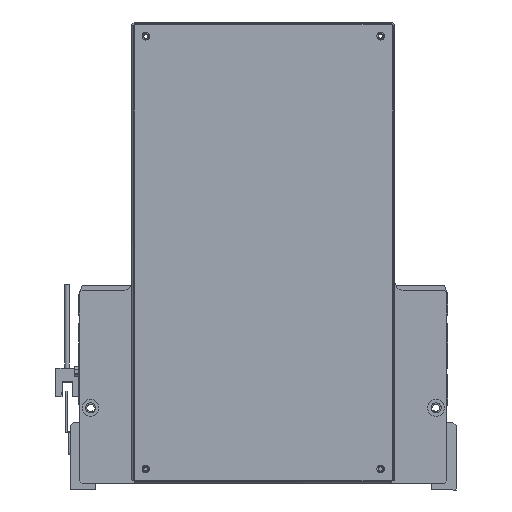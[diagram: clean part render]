
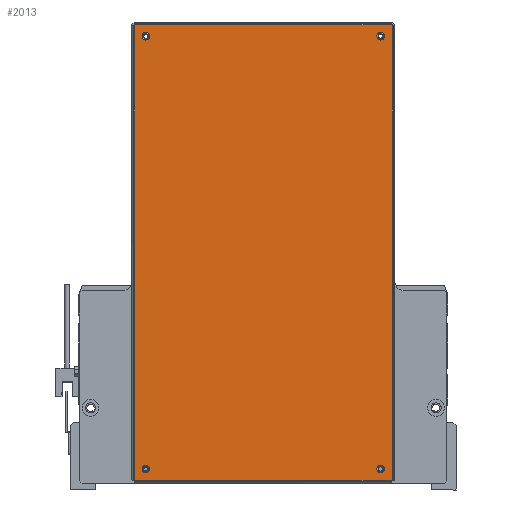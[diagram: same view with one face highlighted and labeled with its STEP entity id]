
A CAD part, front view. The second image highlights one B-rep face of the part: STEP entity #2013.
In plain terms, the highlighted planar face has unit normal (0, -1, 0) as drawn and (0, 0, 1) by its records, which use the part's own axes.
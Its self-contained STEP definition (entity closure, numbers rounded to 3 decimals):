
#877 = CARTESIAN_POINT ( 'NONE',  ( 70., -144., 71. ) ) ;
#954 = PLANE ( 'NONE',  #70922 ) ;
#2013 = ADVANCED_FACE ( 'NONE', ( #64515, #105275, #99609, #22629, #25382 ), #954, .F. ) ;
#2484 = CARTESIAN_POINT ( 'NONE',  ( 70., -144., 71. ) ) ;
#2800 = DIRECTION ( 'NONE',  ( 1., 0., 0. ) ) ;
#3262 = DIRECTION ( 'NONE',  ( 0., 0., 1. ) ) ;
#4441 = ORIENTED_EDGE ( 'NONE', *, *, #101887, .F. ) ;
#6394 = EDGE_CURVE ( 'NONE', #69008, #31630, #89392, .T. ) ;
#8108 = VERTEX_POINT ( 'NONE', #92430 ) ;
#8383 = EDGE_LOOP ( 'NONE', ( #26591, #39963, #104387, #112509 ) ) ;
#10742 = DIRECTION ( 'NONE',  ( -1., 0., 0. ) ) ;
#13672 = EDGE_LOOP ( 'NONE', ( #14492, #98951 ) ) ;
#13895 = VERTEX_POINT ( 'NONE', #68258 ) ;
#14492 = ORIENTED_EDGE ( 'NONE', *, *, #51263, .F. ) ;
#15310 = CIRCLE ( 'NONE', #71644, 2.25 ) ;
#15339 = ORIENTED_EDGE ( 'NONE', *, *, #52270, .F. ) ;
#16408 = CARTESIAN_POINT ( 'NONE',  ( -70., 114., 71. ) ) ;
#16812 = CARTESIAN_POINT ( 'NONE',  ( 72.25, -144., 71. ) ) ;
#18486 = DIRECTION ( 'NONE',  ( 1., 0., 0. ) ) ;
#18802 = EDGE_LOOP ( 'NONE', ( #4441, #110866 ) ) ;
#20149 = DIRECTION ( 'NONE',  ( 0., 0., -1. ) ) ;
#21446 = AXIS2_PLACEMENT_3D ( 'NONE', #2484, #3262, #38925 ) ;
#22072 = CARTESIAN_POINT ( 'NONE',  ( 70., 114., 71. ) ) ;
#22629 = FACE_BOUND ( 'NONE', #18802, .T. ) ;
#22915 = VERTEX_POINT ( 'NONE', #74983 ) ;
#23954 = LINE ( 'NONE', #45855, #32366 ) ;
#24663 = EDGE_CURVE ( 'NONE', #83514, #48847, #52968, .T. ) ;
#25382 = FACE_OUTER_BOUND ( 'NONE', #8383, .T. ) ;
#26591 = ORIENTED_EDGE ( 'NONE', *, *, #6394, .T. ) ;
#26863 = CIRCLE ( 'NONE', #21446, 2.25 ) ;
#27159 = DIRECTION ( 'NONE',  ( 1., 0., 0. ) ) ;
#30866 = AXIS2_PLACEMENT_3D ( 'NONE', #22072, #84270, #40057 ) ;
#31630 = VERTEX_POINT ( 'NONE', #70363 ) ;
#32366 = VECTOR ( 'NONE', #47406, 1000. ) ;
#32467 = DIRECTION ( 'NONE',  ( 1., 0., 0. ) ) ;
#32859 = CIRCLE ( 'NONE', #112660, 2.25 ) ;
#33871 = CIRCLE ( 'NONE', #100973, 2.25 ) ;
#36501 = DIRECTION ( 'NONE',  ( 0., 0., 1. ) ) ;
#36838 = DIRECTION ( 'NONE',  ( -1., 0., 0. ) ) ;
#38444 = DIRECTION ( 'NONE',  ( 0., 0., 1. ) ) ;
#38925 = DIRECTION ( 'NONE',  ( 1., 0., 0. ) ) ;
#39963 = ORIENTED_EDGE ( 'NONE', *, *, #93634, .T. ) ;
#40057 = DIRECTION ( 'NONE',  ( 1., 0., 0. ) ) ;
#42329 = ORIENTED_EDGE ( 'NONE', *, *, #66359, .F. ) ;
#44814 = VERTEX_POINT ( 'NONE', #93794 ) ;
#45130 = CARTESIAN_POINT ( 'NONE',  ( -70., 114., 71. ) ) ;
#45855 = CARTESIAN_POINT ( 'NONE',  ( 76.763, -150.763, 71. ) ) ;
#46600 = VERTEX_POINT ( 'NONE', #83133 ) ;
#47406 = DIRECTION ( 'NONE',  ( 0., 1., 0. ) ) ;
#48847 = VERTEX_POINT ( 'NONE', #16812 ) ;
#51263 = EDGE_CURVE ( 'NONE', #48847, #83514, #26863, .T. ) ;
#52270 = EDGE_CURVE ( 'NONE', #46600, #115764, #88727, .T. ) ;
#52968 = CIRCLE ( 'NONE', #59493, 2.25 ) ;
#57616 = CARTESIAN_POINT ( 'NONE',  ( 67.75, -144., 71. ) ) ;
#57641 = DIRECTION ( 'NONE',  ( 0., -1., 0. ) ) ;
#58236 = EDGE_LOOP ( 'NONE', ( #42329, #90287 ) ) ;
#59493 = AXIS2_PLACEMENT_3D ( 'NONE', #877, #90926, #80766 ) ;
#60034 = EDGE_CURVE ( 'NONE', #8108, #69008, #97750, .T. ) ;
#63520 = DIRECTION ( 'NONE',  ( 0., 0., 1. ) ) ;
#64515 = FACE_BOUND ( 'NONE', #89704, .T. ) ;
#65051 = VECTOR ( 'NONE', #36838, 1000. ) ;
#66359 = EDGE_CURVE ( 'NONE', #13895, #83147, #109741, .T. ) ;
#68258 = CARTESIAN_POINT ( 'NONE',  ( -67.75, -144., 71. ) ) ;
#68443 = CARTESIAN_POINT ( 'NONE',  ( -70., -144., 71. ) ) ;
#69008 = VERTEX_POINT ( 'NONE', #93225 ) ;
#70363 = CARTESIAN_POINT ( 'NONE',  ( 76.763, -150.763, 71. ) ) ;
#70883 = AXIS2_PLACEMENT_3D ( 'NONE', #16408, #78678, #79043 ) ;
#70922 = AXIS2_PLACEMENT_3D ( 'NONE', #100823, #20149, #10742 ) ;
#71644 = AXIS2_PLACEMENT_3D ( 'NONE', #89744, #36501, #18486 ) ;
#71749 = EDGE_CURVE ( 'NONE', #22915, #8108, #76391, .T. ) ;
#73890 = VECTOR ( 'NONE', #57641, 1000. ) ;
#74001 = CARTESIAN_POINT ( 'NONE',  ( -70., -144., 71. ) ) ;
#74849 = CARTESIAN_POINT ( 'NONE',  ( -72.25, -144., 71. ) ) ;
#74983 = CARTESIAN_POINT ( 'NONE',  ( 76.763, 120.763, 71. ) ) ;
#76337 = DIRECTION ( 'NONE',  ( 0., 0., 1. ) ) ;
#76391 = LINE ( 'NONE', #99874, #65051 ) ;
#76765 = VECTOR ( 'NONE', #100354, 1000. ) ;
#77571 = EDGE_CURVE ( 'NONE', #80093, #44814, #98339, .T. ) ;
#78678 = DIRECTION ( 'NONE',  ( 0., 0., 1. ) ) ;
#79043 = DIRECTION ( 'NONE',  ( 1., 0., 0. ) ) ;
#80093 = VERTEX_POINT ( 'NONE', #103651 ) ;
#80766 = DIRECTION ( 'NONE',  ( 1., 0., 0. ) ) ;
#83133 = CARTESIAN_POINT ( 'NONE',  ( -72.25, 114., 71. ) ) ;
#83147 = VERTEX_POINT ( 'NONE', #74849 ) ;
#83514 = VERTEX_POINT ( 'NONE', #57616 ) ;
#84270 = DIRECTION ( 'NONE',  ( 0., 0., 1. ) ) ;
#88727 = CIRCLE ( 'NONE', #70883, 2.25 ) ;
#89392 = LINE ( 'NONE', #101156, #76765 ) ;
#89704 = EDGE_LOOP ( 'NONE', ( #110844, #15339 ) ) ;
#89744 = CARTESIAN_POINT ( 'NONE',  ( 70., 114., 71. ) ) ;
#90287 = ORIENTED_EDGE ( 'NONE', *, *, #106840, .F. ) ;
#90926 = DIRECTION ( 'NONE',  ( 0., 0., 1. ) ) ;
#91541 = AXIS2_PLACEMENT_3D ( 'NONE', #74001, #38444, #2800 ) ;
#92430 = CARTESIAN_POINT ( 'NONE',  ( -76.763, 120.763, 71. ) ) ;
#93225 = CARTESIAN_POINT ( 'NONE',  ( -76.763, -150.763, 71. ) ) ;
#93634 = EDGE_CURVE ( 'NONE', #31630, #22915, #23954, .T. ) ;
#93794 = CARTESIAN_POINT ( 'NONE',  ( 72.25, 114., 71. ) ) ;
#97750 = LINE ( 'NONE', #100792, #73890 ) ;
#98339 = CIRCLE ( 'NONE', #30866, 2.25 ) ;
#98951 = ORIENTED_EDGE ( 'NONE', *, *, #24663, .F. ) ;
#99609 = FACE_BOUND ( 'NONE', #58236, .T. ) ;
#99874 = CARTESIAN_POINT ( 'NONE',  ( 76.763, 120.763, 71. ) ) ;
#100354 = DIRECTION ( 'NONE',  ( 1., 0., 0. ) ) ;
#100792 = CARTESIAN_POINT ( 'NONE',  ( -76.763, 120.763, 71. ) ) ;
#100823 = CARTESIAN_POINT ( 'NONE',  ( 0., -15., 71. ) ) ;
#100973 = AXIS2_PLACEMENT_3D ( 'NONE', #45130, #63520, #27159 ) ;
#101156 = CARTESIAN_POINT ( 'NONE',  ( -76.763, -150.763, 71. ) ) ;
#101887 = EDGE_CURVE ( 'NONE', #44814, #80093, #15310, .T. ) ;
#103651 = CARTESIAN_POINT ( 'NONE',  ( 67.75, 114., 71. ) ) ;
#104387 = ORIENTED_EDGE ( 'NONE', *, *, #71749, .T. ) ;
#105275 = FACE_BOUND ( 'NONE', #13672, .T. ) ;
#106840 = EDGE_CURVE ( 'NONE', #83147, #13895, #32859, .T. ) ;
#109741 = CIRCLE ( 'NONE', #91541, 2.25 ) ;
#109848 = EDGE_CURVE ( 'NONE', #115764, #46600, #33871, .T. ) ;
#110082 = CARTESIAN_POINT ( 'NONE',  ( -67.75, 114., 71. ) ) ;
#110844 = ORIENTED_EDGE ( 'NONE', *, *, #109848, .F. ) ;
#110866 = ORIENTED_EDGE ( 'NONE', *, *, #77571, .F. ) ;
#112509 = ORIENTED_EDGE ( 'NONE', *, *, #60034, .T. ) ;
#112660 = AXIS2_PLACEMENT_3D ( 'NONE', #68443, #76337, #32467 ) ;
#115764 = VERTEX_POINT ( 'NONE', #110082 ) ;
